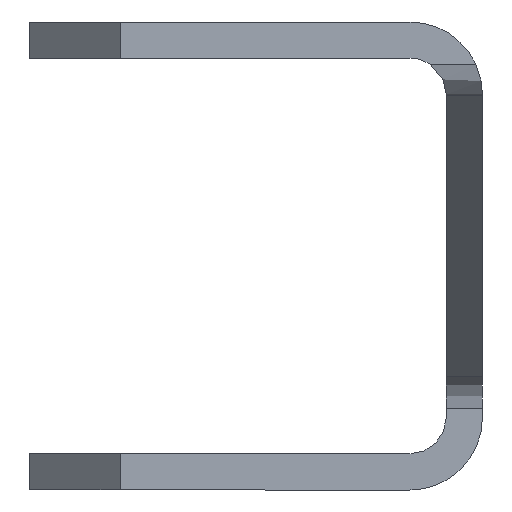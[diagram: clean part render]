
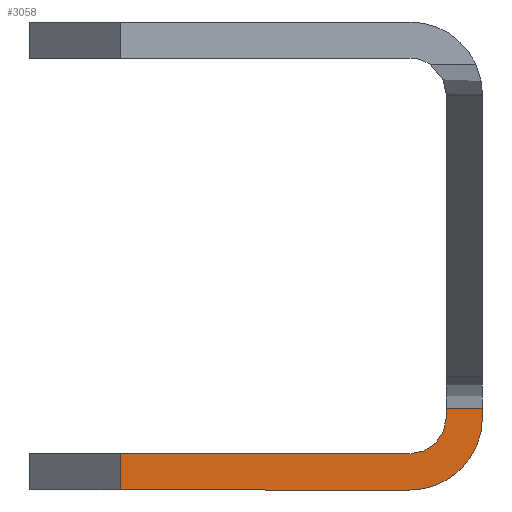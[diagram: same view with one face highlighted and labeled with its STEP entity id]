
A CAD part, left-side view. The second image highlights one B-rep face of the part: STEP entity #3058.
In plain terms, the highlighted planar face has unit normal (-1, 0, 0).
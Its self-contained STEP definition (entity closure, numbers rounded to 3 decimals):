
#115 = CIRCLE ( 'NONE', #2118, 2.4 ) ;
#320 = VERTEX_POINT ( 'NONE', #3823 ) ;
#321 = VERTEX_POINT ( 'NONE', #3822 ) ;
#330 = VERTEX_POINT ( 'NONE', #3813 ) ;
#331 = VERTEX_POINT ( 'NONE', #3812 ) ;
#413 = CIRCLE ( 'NONE', #2620, 1.2 ) ;
#596 = ORIENTED_EDGE ( 'NONE', *, *, #2931, .F. ) ;
#597 = ORIENTED_EDGE ( 'NONE', *, *, #2933, .T. ) ;
#599 = ORIENTED_EDGE ( 'NONE', *, *, #2924, .T. ) ;
#600 = ORIENTED_EDGE ( 'NONE', *, *, #4495, .T. ) ;
#601 = ORIENTED_EDGE ( 'NONE', *, *, #4501, .F. ) ;
#602 = ORIENTED_EDGE ( 'NONE', *, *, #2925, .T. ) ;
#603 = ORIENTED_EDGE ( 'NONE', *, *, #4488, .T. ) ;
#606 = ORIENTED_EDGE ( 'NONE', *, *, #4516, .T. ) ;
#1387 = LINE ( 'NONE', #1388, #2110 ) ;
#1388 = CARTESIAN_POINT ( 'NONE',  ( -637.5, 7.5, -6.55 ) ) ;
#1389 = DIRECTION ( 'NONE',  ( 0., 1., 0. ) ) ;
#1421 = CARTESIAN_POINT ( 'NONE',  ( -637.5, -5.1, -5.35 ) ) ;
#1422 = DIRECTION ( 'NONE',  ( -1., 0., 0. ) ) ;
#1423 = DIRECTION ( 'NONE',  ( 0., 0., -1. ) ) ;
#1440 = LINE ( 'NONE', #1441, #2098 ) ;
#1441 = CARTESIAN_POINT ( 'NONE',  ( -637.5, -7.5, -4.35 ) ) ;
#1442 = DIRECTION ( 'NONE',  ( 0., 0., -1. ) ) ;
#1485 = LINE ( 'NONE', #1486, #2082 ) ;
#1486 = CARTESIAN_POINT ( 'NONE',  ( -637.5, 7.5, -7.75 ) ) ;
#1487 = DIRECTION ( 'NONE',  ( 0., -1., 0. ) ) ;
#1544 = CARTESIAN_POINT ( 'NONE',  ( -637.5, -5.1, -6.55 ) ) ;
#1545 = CARTESIAN_POINT ( 'NONE',  ( -637.5, -6.3, -5.35 ) ) ;
#1546 = CARTESIAN_POINT ( 'NONE',  ( -637.5, 4.5, -6.55 ) ) ;
#1551 = CARTESIAN_POINT ( 'NONE',  ( -637.5, -6.3, -5.046 ) ) ;
#2082 = VECTOR ( 'NONE', #1487, 1000. ) ;
#2098 = VECTOR ( 'NONE', #1442, 1000. ) ;
#2110 = VECTOR ( 'NONE', #1389, 1000. ) ;
#2118 = AXIS2_PLACEMENT_3D ( 'NONE', #1421, #1422, #1423 ) ;
#2377 = VECTOR ( 'NONE', #3590, 1000. ) ;
#2510 = VECTOR ( 'NONE', #3631, 1000. ) ;
#2563 = AXIS2_PLACEMENT_3D ( 'NONE', #3238, #3237, #3236 ) ;
#2567 = FACE_OUTER_BOUND ( 'NONE', #4143, .T. ) ;
#2618 = VECTOR ( 'NONE', #3628, 1000. ) ;
#2620 = AXIS2_PLACEMENT_3D ( 'NONE', #3599, #3598, #3597 ) ;
#2924 = EDGE_CURVE ( 'NONE', #330, #4838, #3633, .T. ) ;
#2925 = EDGE_CURVE ( 'NONE', #4833, #321, #3630, .T. ) ;
#2931 = EDGE_CURVE ( 'NONE', #4831, #4832, #413, .T. ) ;
#2933 = EDGE_CURVE ( 'NONE', #4838, #4832, #3592, .T. ) ;
#3058 = ADVANCED_FACE ( 'NONE', ( #2567 ), #3239, .F. ) ;
#3236 = DIRECTION ( 'NONE',  ( 0., 0., -1. ) ) ;
#3237 = DIRECTION ( 'NONE',  ( 1., 0., 0. ) ) ;
#3238 = CARTESIAN_POINT ( 'NONE',  ( -637.5, 7.5, -4.35 ) ) ;
#3239 = PLANE ( 'NONE',  #2563 ) ;
#3590 = DIRECTION ( 'NONE',  ( 0., 0., -1. ) ) ;
#3591 = CARTESIAN_POINT ( 'NONE',  ( -637.5, -6.3, 7.75 ) ) ;
#3592 = LINE ( 'NONE', #3591, #2377 ) ;
#3597 = DIRECTION ( 'NONE',  ( 0., 0., -1. ) ) ;
#3598 = DIRECTION ( 'NONE',  ( -1., 0., 0. ) ) ;
#3599 = CARTESIAN_POINT ( 'NONE',  ( -637.5, -5.1, -5.35 ) ) ;
#3628 = DIRECTION ( 'NONE',  ( 0., 0., -1. ) ) ;
#3629 = CARTESIAN_POINT ( 'NONE',  ( -637.5, 4.5, -4.35 ) ) ;
#3630 = LINE ( 'NONE', #3629, #2618 ) ;
#3631 = DIRECTION ( 'NONE',  ( 0., 1., 0. ) ) ;
#3632 = CARTESIAN_POINT ( 'NONE',  ( -637.5, 7.5, -5.046 ) ) ;
#3633 = LINE ( 'NONE', #3632, #2510 ) ;
#3812 = CARTESIAN_POINT ( 'NONE',  ( -637.5, -7.5, -5.35 ) ) ;
#3813 = CARTESIAN_POINT ( 'NONE',  ( -637.5, -7.5, -5.046 ) ) ;
#3822 = CARTESIAN_POINT ( 'NONE',  ( -637.5, 4.5, -7.75 ) ) ;
#3823 = CARTESIAN_POINT ( 'NONE',  ( -637.5, -5.1, -7.75 ) ) ;
#4143 = EDGE_LOOP ( 'NONE', ( #603, #602, #606, #600, #601, #599, #597, #596 ) ) ;
#4488 = EDGE_CURVE ( 'NONE', #4831, #4833, #1387, .T. ) ;
#4495 = EDGE_CURVE ( 'NONE', #320, #331, #115, .T. ) ;
#4501 = EDGE_CURVE ( 'NONE', #330, #331, #1440, .T. ) ;
#4516 = EDGE_CURVE ( 'NONE', #321, #320, #1485, .T. ) ;
#4831 = VERTEX_POINT ( 'NONE', #1544 ) ;
#4832 = VERTEX_POINT ( 'NONE', #1545 ) ;
#4833 = VERTEX_POINT ( 'NONE', #1546 ) ;
#4838 = VERTEX_POINT ( 'NONE', #1551 ) ;
